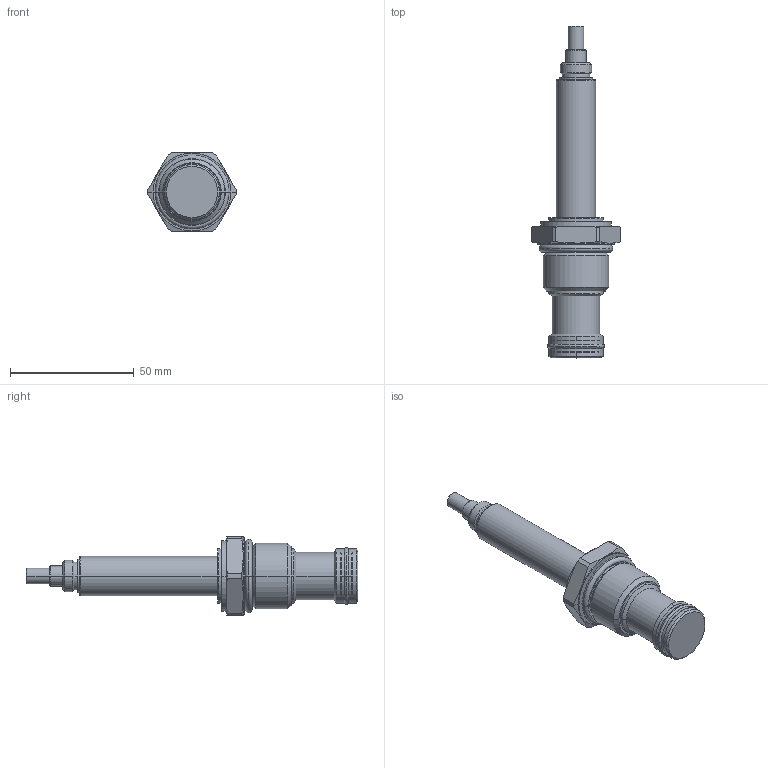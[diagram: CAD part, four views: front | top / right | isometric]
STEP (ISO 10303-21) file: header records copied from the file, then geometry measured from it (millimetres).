
FILE_DESCRIPTION((''),'2;1');
FILE_NAME('PRT0004','2009-03-03T',('JCS'),(''),'PRO/ENGINEER BY PARAMETRIC TECHNOLOGY CORPORATION, 2008010','PRO/ENGINEER BY PARAMETRIC TECHNOLOGY CORPORATION, 2008010','');
FILE_SCHEMA(('CONFIG_CONTROL_DESIGN'));
Length unit declared in the file: inch
Products named in the file (1): PRT0004
Bounding box: 35.69 x 134.14 x 31.75 mm (x, y, z)
Volume: 39596 mm3; surface area: 11660.5 mm2
Topology: 5 solids, 5 shells, 136 faces, 296 edges, 174 vertices
Faces by surface type: cylinder 46, cone 42, plane 20, revolution 16, torus 12
Entity records: 4138 total; most frequent: CARTESIAN_POINT 1056, DIRECTION 686, ORIENTED_EDGE 592, EDGE_CURVE 296, AXIS2_PLACEMENT_3D 288, VERTEX_POINT 174, CIRCLE 168, EDGE_LOOP 148
